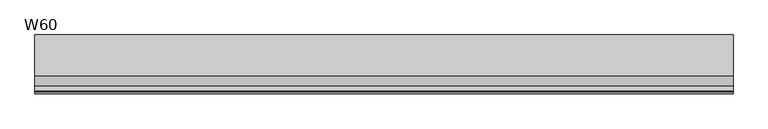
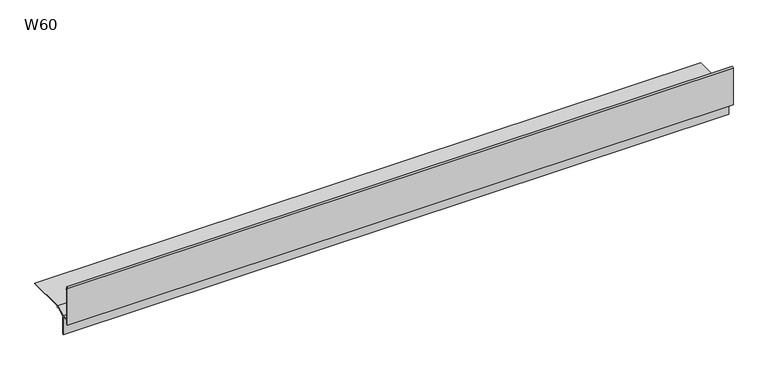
"""IFC4 building model written with IfcOpenShell, lengths in millimetres: proxy geometry, W60 Profil okapowy prosty : W60."""

from ifc_helpers import new_model, si_unit, point, frame, frame_2d, origin, place, context, project, spatial, polyline, circle_curve, trimmed, segment, composite_curve, outline, extrude, source, transform, mapped, element, save


def w60_1233e3f4(model_context):
    return source(origin(), model_context, "Body", "SweptSolid", [
        extrude(outline(composite_curve([segment(polyline([(-35.3, 58.0041739), (-35.3, 55.1), (-32.2, 55.1), (-32.2, 53.6), (-35.3, 53.6), (-35.3, -10.3), (-21.4577341, -10.3), (-1.5870197, 0.0), (80.0, 0.0), (80.0, -1.7), (0.0, -1.7), (0.0, -4.7), (-1.7, -4.7), (-1.7, -1.9733759), (-19.8, -11.3555248), (-19.8, -50.5449747), (-21.5, -52.2449747), (-21.5, -12.0), (-35.3, -12.0), (-35.3, -20.9113249), (-37.0, -21.8928203), (-37.0, 58.0077037)]), True, "CONTINUOUS"), segment(trimmed(circle_curve(frame_2d((-34.2, 58.0077037)), 2.8), [point((-37.0, 58.0077037))], [point((-34.2, 60.8077037))], False, "CARTESIAN"), True, "CONTINUOUS"), segment(polyline([(-34.2, 60.8077037), (-34.2, 58.9991614)]), True, "CONTINUOUS"), segment(trimmed(circle_curve(frame_2d((-34.3, 58.0041739)), 1.0), [point((-34.2, 58.9991614))], [point((-35.3, 58.0041739))], True, "CARTESIAN"), True, "CONTINUOUS")], self_intersect=False)), frame((0.0, 0.0, 0.0), z_axis=(1.0, 0.0, 0.0), x_axis=(0.0, 1.0, 0.0)), (0.0, 0.0, 1.0), 1385.0),
    ])


if __name__ == "__main__":
    model = new_model("IFC4")
    model_context = context("Model", 3, world=origin())
    ifc_project = project(units=[si_unit("LENGTHUNIT", "METRE", prefix="MILLI")], contexts=[model_context])
    site = spatial("IfcSite", under=ifc_project)
    building = spatial("IfcBuilding", under=site)
    placement = place(None, origin())
    w60_shape = w60_1233e3f4(model_context)
    element("IfcBuildingElementProxy", 1, Name="W60 Profil okapowy prosty : W60", ObjectType="W60 Profil okapowy prosty : W60", at=placement, inside=building, context=model_context, shape_type="MappedRepresentation", body=[
        mapped(w60_shape, transform((0.0, 0.0, 0.0), x_axis=(1.0, 0.0, 0.0), y_axis=(0.0, 1.0, 0.0), z_axis=(0.0, 0.0, 1.0))),
    ])
    save(model, "model.ifc")
